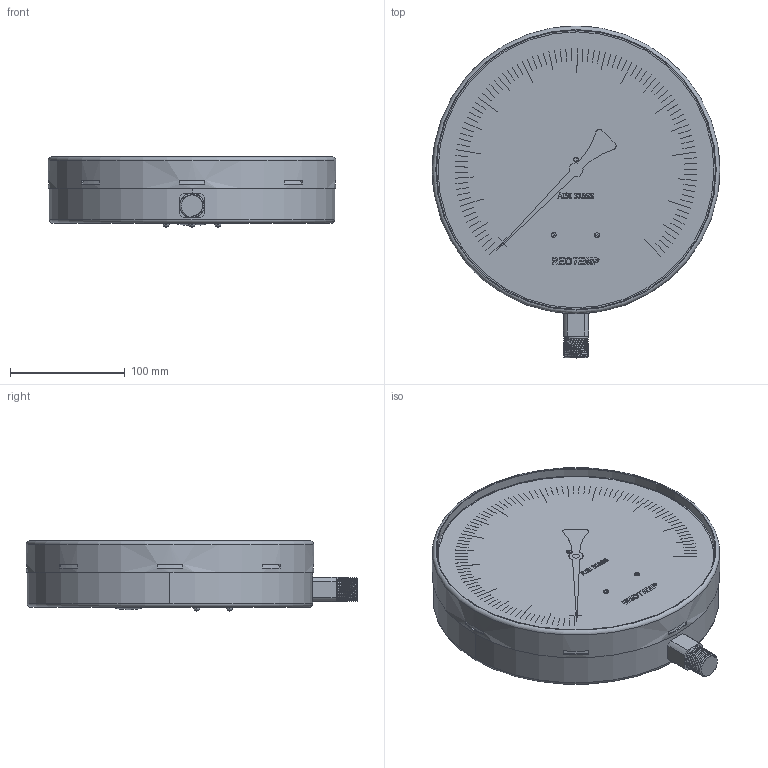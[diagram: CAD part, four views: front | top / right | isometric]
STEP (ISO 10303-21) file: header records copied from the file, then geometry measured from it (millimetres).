
FILE_DESCRIPTION(/* description */ (''),/* implementation_level */ '2;1');
FILE_NAME(/* name */ 'PR10 Bottom Connection NPT Gauge.stp',/* time_stamp */ '2024-06-05T11:32:43-05:00',/* author */ ('mpinzon'),/* organization */ (''),/* preprocessor_version */ 'ST-DEVELOPER v20',/* originating_system */ 'Autodesk Inventor 2024',/* authorisation */ '');
FILE_SCHEMA (('AUTOMOTIVE_DESIGN { 1 0 10303 214 3 1 1 }'));
Length unit declared in the file: inch
Products named in the file (6): PR10 Bottom Connection NPT Gauge; PR10 Bottom Connection NPT; PR10 Dial; PR 10 DIAL SCREW; PR 10 Front DIAL SCREW; PR10 NEEDLE 1
Assembly tree (9 placements, depth 2):
  PR10 Bottom Connection NPT Gauge
    PR10 Bottom Connection NPT
    PR10 Dial
    PR 10 DIAL SCREW  x3
    PR 10 Front DIAL SCREW  x3
    PR10 NEEDLE 1
Bounding box: 250.95 x 289.56 x 61.2 mm (x, y, z)
Volume: 2508594 mm3; surface area: 246640.8 mm2
Topology: 10 solids, 10 shells, 945 faces, 2370 edges, 1585 vertices
Faces by surface type: plane 779, bspline 115, cylinder 40, cone 8, torus 2, sphere 1
Full cylindrical faces by diameter (mm): 4.267 x1, 4.28 x5, 5.715 x3, 5.944 x3, 5.994 x1, 21.336 x10, 240.792 x1, 243.332 x1, 250.952 x1
Entity records: 33789 total; most frequent: CARTESIAN_POINT 12628, ORIENTED_EDGE 4510, DIRECTION 3691, EDGE_CURVE 2255, LINE 1895, VECTOR 1895, VERTEX_POINT 1504, EDGE_LOOP 1043
